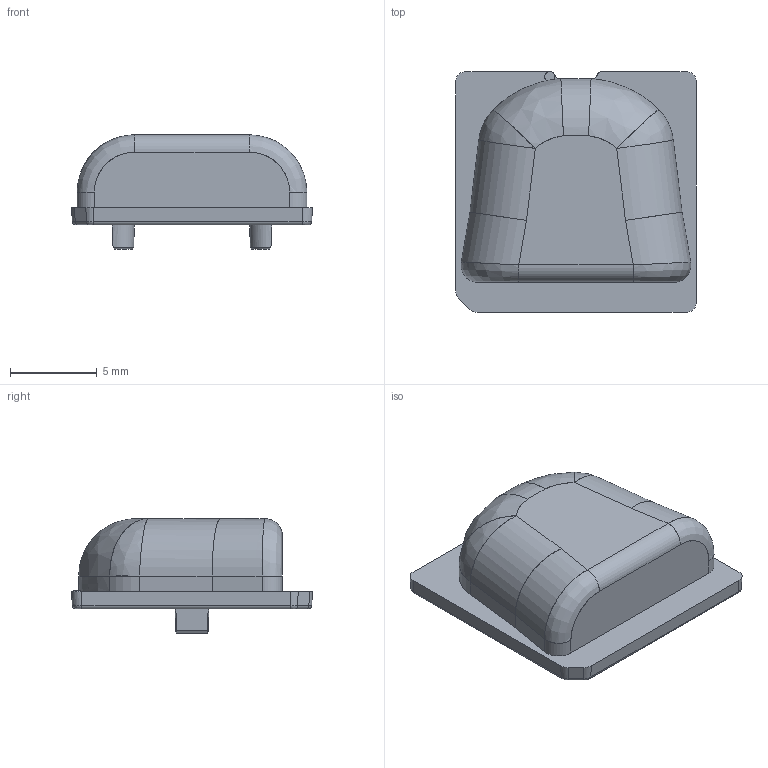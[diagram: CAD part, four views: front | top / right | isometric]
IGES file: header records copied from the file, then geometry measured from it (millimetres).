
Start section: START RECORD GO HERE.
Global section: file name: C15917_Stradella-T4-B-mechanical_model.igs; native system: DASSAULT SYSTEMES CATIA Version 5-6 Release 2013 - www.3ds.com; preprocessor: V5-6R2013_5.23.4.0.01-30-2014.20.00; author: kimmo.harjunpaa; organization: LEDIL; date: 20170511.155857; units: millimetre
Bounding box: 13.9 x 13.9 x 6.6 mm (x, y, z)
Surface area: 626 mm2 (no closed solid volume)
Topology: 0 solids, 0 shells, 254 faces, 1368 edges, 1364 vertices
Faces by surface type: plane 83, bspline 79, extrusion 46, revolution 46
